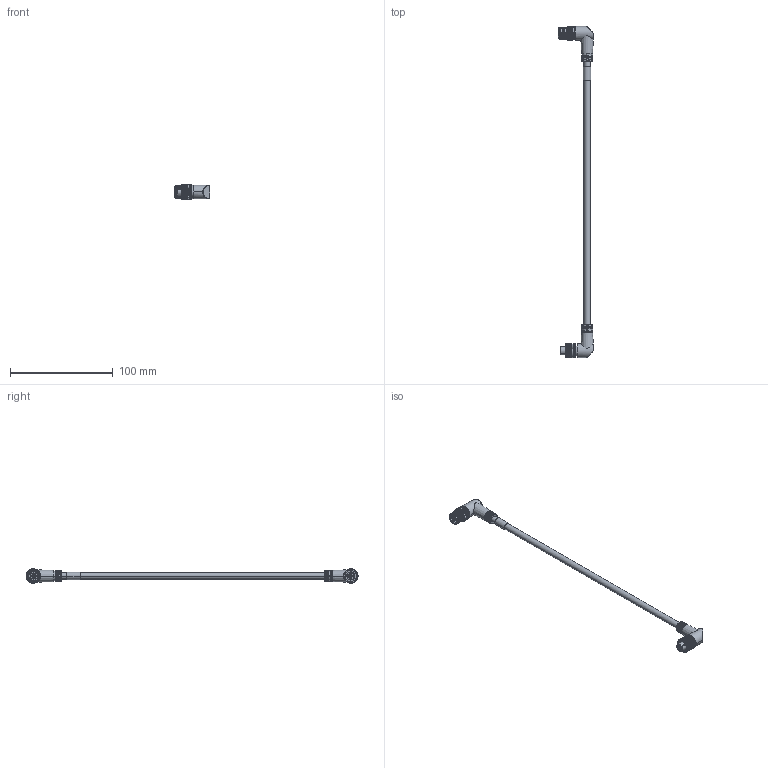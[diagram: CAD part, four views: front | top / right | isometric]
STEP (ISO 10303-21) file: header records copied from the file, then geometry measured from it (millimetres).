
FILE_DESCRIPTION((''),'2;1');
FILE_NAME('889D-R5ACDE-2','2013-10-19T',('20019289'),('Rockwell Automation'),'PRO/ENGINEER BY PARAMETRIC TECHNOLOGY CORPORATION, 2010140','PRO/ENGINEER BY PARAMETRIC TECHNOLOGY CORPORATION, 2010140','');
FILE_SCHEMA(('CONFIG_CONTROL_DESIGN'));
Length unit declared in the file: inch
Products named in the file (1): 889D-R5ACDE-2
Bounding box: 34.29 x 322.36 x 14.01 mm (x, y, z)
Volume: 18320.5 mm3; surface area: 11645.6 mm2
Topology: 1 solids, 1 shells, 944 faces, 2285 edges, 1372 vertices
Faces by surface type: plane 446, cylinder 358, cone 108, torus 24, bspline 4, sphere 4
Entity records: 28832 total; most frequent: CARTESIAN_POINT 6606, DIRECTION 4840, ORIENTED_EDGE 4570, EDGE_CURVE 2285, AXIS2_PLACEMENT_3D 1844, VERTEX_POINT 1372, VECTOR 1152, LINE 1152
